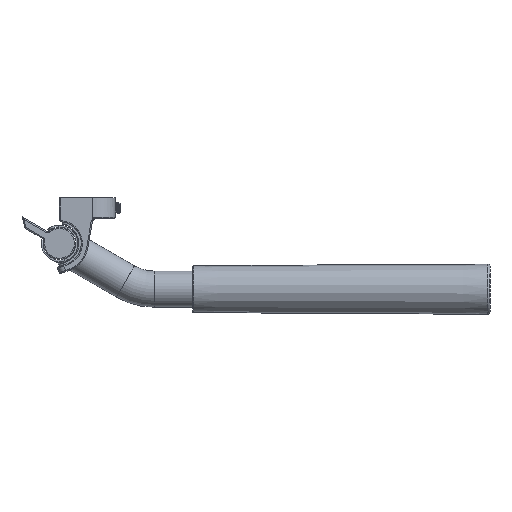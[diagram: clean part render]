
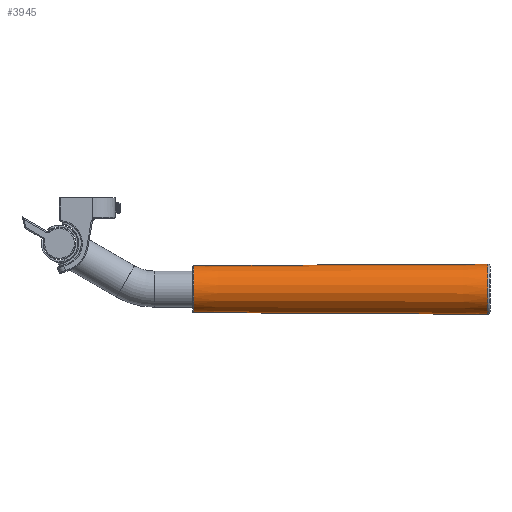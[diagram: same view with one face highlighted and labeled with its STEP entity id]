
A CAD part, left-side view. The second image highlights one B-rep face of the part: STEP entity #3945.
In plain terms, the highlighted conical face has half-angle 0.333 degrees and reference radius 10.626 mm.
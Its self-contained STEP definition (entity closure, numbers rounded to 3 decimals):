
#3086=CARTESIAN_POINT('',(0.,-0.497,0.));
#3087=DIRECTION('',(0.,1.,0.));
#3088=DIRECTION('',(0.,0.,-1.));
#3089=AXIS2_PLACEMENT_3D('',#3086,#3087,#3088);
#3091=DIRECTION('',(0.,1.,-0.006));
#3092=VECTOR('',#3091,128.499);
#3093=CARTESIAN_POINT('',(0.,-128.994,11.));
#3094=LINE('',#3093,#3092);
#3095=CARTESIAN_POINT('',(0.,-128.994,0.));
#3096=DIRECTION('',(0.,1.,0.));
#3097=DIRECTION('',(0.,0.,-1.));
#3098=AXIS2_PLACEMENT_3D('',#3095,#3096,#3097);
#3100=DIRECTION('',(0.,1.,0.006));
#3101=VECTOR('',#3100,128.499);
#3102=CARTESIAN_POINT('',(0.,-128.994,-11.));
#3103=LINE('',#3102,#3101);
#3108=CARTESIAN_POINT('',(0.,-128.994,-11.));
#3109=VERTEX_POINT('',#3108);
#3112=CARTESIAN_POINT('',(0.,-128.994,11.));
#3113=VERTEX_POINT('',#3112);
#3122=CARTESIAN_POINT('',(0.,-0.497,-10.253));
#3123=CARTESIAN_POINT('',(0.,-0.497,10.253));
#3124=VERTEX_POINT('',#3122);
#3125=VERTEX_POINT('',#3123);
#3934=CARTESIAN_POINT('',(0.,-64.746,0.));
#3935=DIRECTION('',(0.,-1.,0.));
#3936=DIRECTION('',(0.,0.,1.));
#3937=AXIS2_PLACEMENT_3D('',#3934,#3935,#3936);
#3938=CONICAL_SURFACE('',#3937,10.626,0.333);
#3939=ORIENTED_EDGE('',*,*,#3928,.T.);
#3940=ORIENTED_EDGE('',*,*,#3302,.F.);
#3941=ORIENTED_EDGE('',*,*,#3271,.F.);
#3942=ORIENTED_EDGE('',*,*,#3299,.T.);
#3943=EDGE_LOOP('',(#3939,#3940,#3941,#3942));
#3944=FACE_OUTER_BOUND('',#3943,.F.);
#3945=ADVANCED_FACE('',(#3944),#3938,.T.);
#3090=CIRCLE('',#3089,10.253);
#3099=CIRCLE('',#3098,11.);
#3271=EDGE_CURVE('',#3109,#3113,#3099,.T.);
#3299=EDGE_CURVE('',#3109,#3124,#3103,.T.);
#3302=EDGE_CURVE('',#3113,#3125,#3094,.T.);
#3928=EDGE_CURVE('',#3124,#3125,#3090,.T.);
